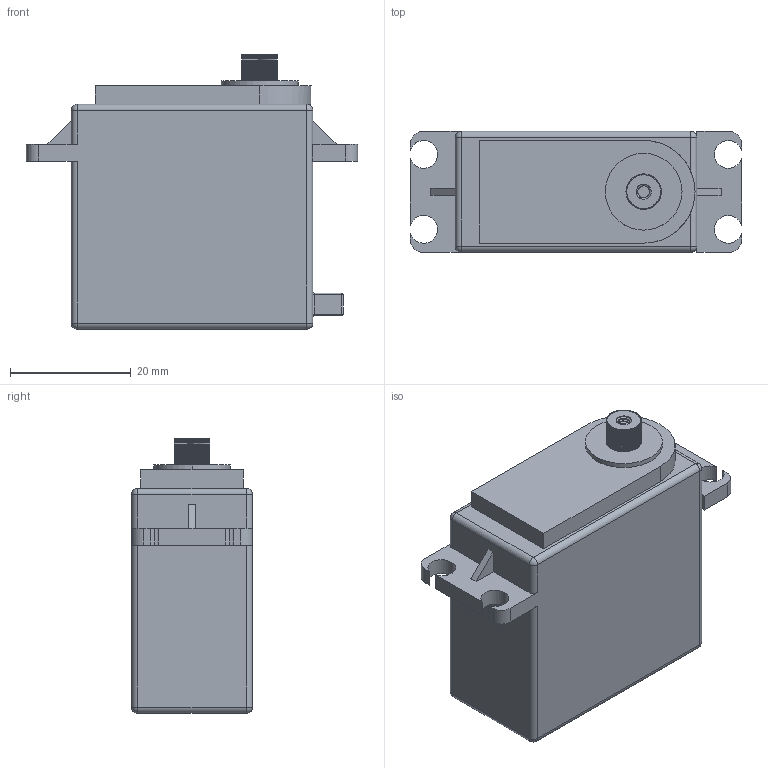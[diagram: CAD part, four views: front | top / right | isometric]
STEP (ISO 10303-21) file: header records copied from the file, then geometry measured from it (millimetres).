
FILE_DESCRIPTION (( 'STEP AP203' ), '1' );
FILE_NAME ('servo TIANKONGRC 30KG.STEP', '2025-10-13T10:20:45', ( '' ), ( '' ), 'SwSTEP 2.0', 'SolidWorks 2023', '' );
FILE_SCHEMA (( 'CONFIG_CONTROL_DESIGN' ));
Length unit declared in the file: millimetre
Products named in the file (1): servo TIANKONGRC 30KG
Bounding box: 54.8 x 20 x 45.4 mm (x, y, z)
Volume: 32421.9 mm3; surface area: 7242 mm2
Topology: 1 solids, 1 shells, 326 faces, 918 edges, 586 vertices
Faces by surface type: plane 243, cylinder 64, sphere 12, torus 4, bspline 3
Entity records: 11597 total; most frequent: CARTESIAN_POINT 3279, ORIENTED_EDGE 1812, DIRECTION 1589, EDGE_CURVE 906, LINE 767, VECTOR 767, VERTEX_POINT 586, AXIS2_PLACEMENT_3D 411
